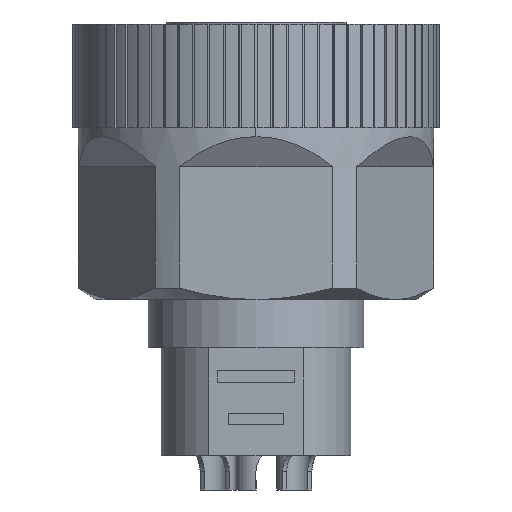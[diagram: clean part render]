
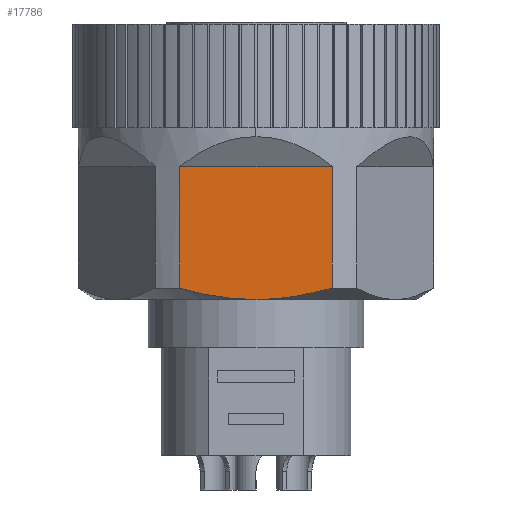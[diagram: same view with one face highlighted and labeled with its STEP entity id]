
A CAD part, left-side view. The second image highlights one B-rep face of the part: STEP entity #17786.
In plain terms, the highlighted planar face has unit normal (-1, 0, 0).
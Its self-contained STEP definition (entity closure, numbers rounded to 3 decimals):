
#233 = CARTESIAN_POINT ( 'NONE',  ( -7.65, 8.832, -6.3 ) ) ;
#2857 = CARTESIAN_POINT ( 'NONE',  ( -7.65, 2.179, -11.6 ) ) ;
#3132 = ORIENTED_EDGE ( 'NONE', *, *, #14988, .F. ) ;
#3324 = CARTESIAN_POINT ( 'NONE',  ( -7.65, 9.547, -6.3 ) ) ;
#3340 = CARTESIAN_POINT ( 'NONE',  ( -7.65, 8.832, -11.6 ) ) ;
#5267 = ORIENTED_EDGE ( 'NONE', *, *, #22395, .F. ) ;
#6123 = PLANE ( 'NONE',  #15888 ) ;
#6363 = CARTESIAN_POINT ( 'NONE',  ( -7.65, 5.506, -12.1 ) ) ;
#6425 = CARTESIAN_POINT ( 'NONE',  ( -7.65, 5.506, -12.1 ) ) ;
#8006 = CARTESIAN_POINT ( 'NONE',  ( -7.65, 5.506, -12.1 ) ) ;
#8079 = CARTESIAN_POINT ( 'NONE',  ( -7.65, 6.639, -12.1 ) ) ;
#8156 = CARTESIAN_POINT ( 'NONE',  ( -7.65, 2.179, -11.6 ) ) ;
#8518 = CARTESIAN_POINT ( 'NONE',  ( -7.65, 8.832, -11.6 ) ) ;
#9743 = VERTEX_POINT ( 'NONE', #233 ) ;
#9861 = VERTEX_POINT ( 'NONE', #3340 ) ;
#12370 = CARTESIAN_POINT ( 'NONE',  ( -7.65, 2.179, -4.6 ) ) ;
#12763 = VERTEX_POINT ( 'NONE', #2857 ) ;
#13996 = EDGE_CURVE ( 'NONE', #9743, #27328, #21696, .T. ) ;
#14178 = DIRECTION ( 'NONE',  ( 0., 0., -1. ) ) ;
#14988 = EDGE_CURVE ( 'NONE', #27328, #12763, #16992, .T. ) ;
#15123 = EDGE_CURVE ( 'NONE', #15802, #9861, #23929, .T. ) ;
#15590 = CARTESIAN_POINT ( 'NONE',  ( -7.65, 2.179, -6.3 ) ) ;
#15802 = VERTEX_POINT ( 'NONE', #8006 ) ;
#15888 = AXIS2_PLACEMENT_3D ( 'NONE', #21830, #17401, #28481 ) ;
#16326 = ORIENTED_EDGE ( 'NONE', *, *, #16845, .F. ) ;
#16453 = ORIENTED_EDGE ( 'NONE', *, *, #15123, .F. ) ;
#16845 = EDGE_CURVE ( 'NONE', #12763, #15802, #27409, .T. ) ;
#16992 = LINE ( 'NONE', #12370, #28850 ) ;
#17401 = DIRECTION ( 'NONE',  ( 1., 0., 0. ) ) ;
#17786 = ADVANCED_FACE ( 'NONE', ( #25377 ), #6123, .F. ) ;
#19466 = LINE ( 'NONE', #21389, #22198 ) ;
#20402 = EDGE_LOOP ( 'NONE', ( #16453, #16326, #3132, #23484, #5267 ) ) ;
#21389 = CARTESIAN_POINT ( 'NONE',  ( -7.65, 8.832, -4.6 ) ) ;
#21391 = DIRECTION ( 'NONE',  ( 0., -1., 0. ) ) ;
#21696 = LINE ( 'NONE', #3324, #27882 ) ;
#21830 = CARTESIAN_POINT ( 'NONE',  ( -7.65, 9.547, -12.1 ) ) ;
#22198 = VECTOR ( 'NONE', #26265, 1000. ) ;
#22395 = EDGE_CURVE ( 'NONE', #9861, #9743, #19466, .T. ) ;
#23484 = ORIENTED_EDGE ( 'NONE', *, *, #13996, .F. ) ;
#23929 = B_SPLINE_CURVE_WITH_KNOTS ( 'NONE', 3,
 ( #6425, #8079, #24355, #8518 ),
 .UNSPECIFIED., .F., .F.,
 ( 4, 4 ),
 ( 0., 0.003 ),
 .UNSPECIFIED. ) ;
#24355 = CARTESIAN_POINT ( 'NONE',  ( -7.65, 7.745, -11.911 ) ) ;
#25377 = FACE_OUTER_BOUND ( 'NONE', #20402, .T. ) ;
#26265 = DIRECTION ( 'NONE',  ( 0., 0., 1. ) ) ;
#27328 = VERTEX_POINT ( 'NONE', #15590 ) ;
#27409 = B_SPLINE_CURVE_WITH_KNOTS ( 'NONE', 3,
 ( #8156, #28307, #28593, #6363 ),
 .UNSPECIFIED., .F., .F.,
 ( 4, 4 ),
 ( 0., 0.003 ),
 .UNSPECIFIED. ) ;
#27882 = VECTOR ( 'NONE', #21391, 1000. ) ;
#28307 = CARTESIAN_POINT ( 'NONE',  ( -7.65, 3.266, -11.911 ) ) ;
#28481 = DIRECTION ( 'NONE',  ( 0., 0., -1. ) ) ;
#28593 = CARTESIAN_POINT ( 'NONE',  ( -7.65, 4.372, -12.1 ) ) ;
#28850 = VECTOR ( 'NONE', #14178, 1000. ) ;
